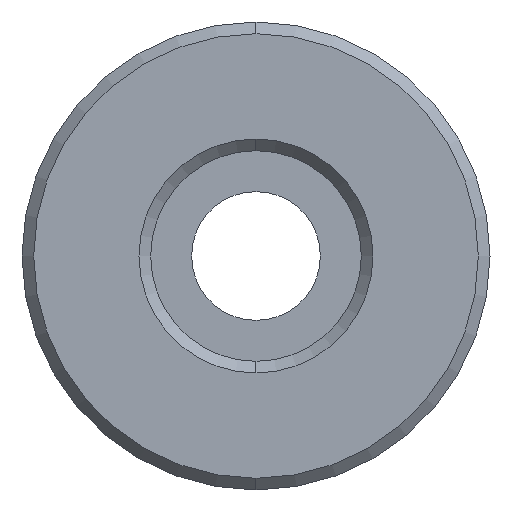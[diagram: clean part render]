
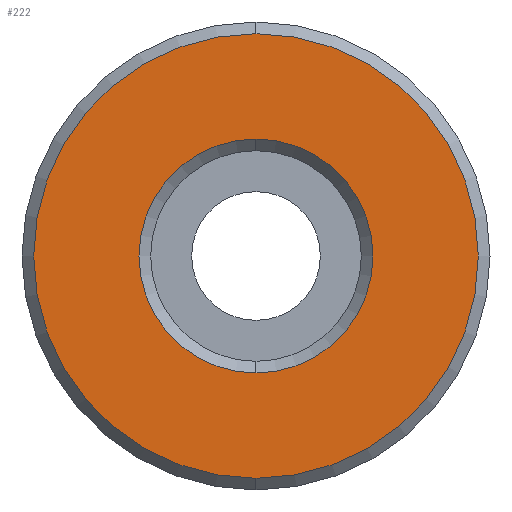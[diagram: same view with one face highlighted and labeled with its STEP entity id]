
A CAD part, left-side view. The second image highlights one B-rep face of the part: STEP entity #222.
In plain terms, the highlighted planar face has unit normal (-1, 0, 0).
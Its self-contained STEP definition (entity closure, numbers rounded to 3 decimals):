
#37 = CIRCLE ( 'NONE', #99, 10. ) ;
#73 = CIRCLE ( 'NONE', #364, 10. ) ;
#81 = CARTESIAN_POINT ( 'NONE',  ( 0., 0., 19. ) ) ;
#99 = AXIS2_PLACEMENT_3D ( 'NONE', #126, #363, #471 ) ;
#108 = EDGE_LOOP ( 'NONE', ( #327, #476 ) ) ;
#111 = CARTESIAN_POINT ( 'NONE',  ( 0., 0., 10. ) ) ;
#126 = CARTESIAN_POINT ( 'NONE',  ( 0., 0., 0. ) ) ;
#127 = AXIS2_PLACEMENT_3D ( 'NONE', #297, #408, #141 ) ;
#128 = ORIENTED_EDGE ( 'NONE', *, *, #422, .T. ) ;
#141 = DIRECTION ( 'NONE',  ( 0., 0., -1. ) ) ;
#146 = CARTESIAN_POINT ( 'NONE',  ( 0., 0., -19. ) ) ;
#158 = AXIS2_PLACEMENT_3D ( 'NONE', #404, #409, #413 ) ;
#167 = VERTEX_POINT ( 'NONE', #111 ) ;
#172 = PLANE ( 'NONE',  #127 ) ;
#174 = FACE_OUTER_BOUND ( 'NONE', #280, .T. ) ;
#186 = CARTESIAN_POINT ( 'NONE',  ( 0., 0., 0. ) ) ;
#188 = FACE_BOUND ( 'NONE', #108, .T. ) ;
#196 = CARTESIAN_POINT ( 'NONE',  ( 0., 0., 0. ) ) ;
#199 = EDGE_CURVE ( 'NONE', #167, #245, #73, .T. ) ;
#202 = ORIENTED_EDGE ( 'NONE', *, *, #352, .T. ) ;
#204 = AXIS2_PLACEMENT_3D ( 'NONE', #196, #207, #220 ) ;
#207 = DIRECTION ( 'NONE',  ( -1., 0., 0. ) ) ;
#219 = DIRECTION ( 'NONE',  ( 0., 0., -1. ) ) ;
#220 = DIRECTION ( 'NONE',  ( 0., 0., -1. ) ) ;
#222 = ADVANCED_FACE ( 'NONE', ( #174, #188 ), #172, .F. ) ;
#245 = VERTEX_POINT ( 'NONE', #295 ) ;
#250 = EDGE_CURVE ( 'NONE', #245, #167, #37, .T. ) ;
#280 = EDGE_LOOP ( 'NONE', ( #202, #128 ) ) ;
#295 = CARTESIAN_POINT ( 'NONE',  ( 0., 0., -10. ) ) ;
#297 = CARTESIAN_POINT ( 'NONE',  ( 0., 9., 0. ) ) ;
#327 = ORIENTED_EDGE ( 'NONE', *, *, #199, .T. ) ;
#344 = CIRCLE ( 'NONE', #204, 19. ) ;
#352 = EDGE_CURVE ( 'NONE', #492, #479, #344, .T. ) ;
#363 = DIRECTION ( 'NONE',  ( 1., 0., 0. ) ) ;
#364 = AXIS2_PLACEMENT_3D ( 'NONE', #186, #494, #219 ) ;
#383 = CIRCLE ( 'NONE', #158, 19. ) ;
#404 = CARTESIAN_POINT ( 'NONE',  ( 0., 0., 0. ) ) ;
#408 = DIRECTION ( 'NONE',  ( 1., 0., 0. ) ) ;
#409 = DIRECTION ( 'NONE',  ( -1., 0., 0. ) ) ;
#413 = DIRECTION ( 'NONE',  ( 0., 0., -1. ) ) ;
#422 = EDGE_CURVE ( 'NONE', #479, #492, #383, .T. ) ;
#471 = DIRECTION ( 'NONE',  ( 0., 0., -1. ) ) ;
#476 = ORIENTED_EDGE ( 'NONE', *, *, #250, .T. ) ;
#479 = VERTEX_POINT ( 'NONE', #81 ) ;
#492 = VERTEX_POINT ( 'NONE', #146 ) ;
#494 = DIRECTION ( 'NONE',  ( 1., 0., 0. ) ) ;
